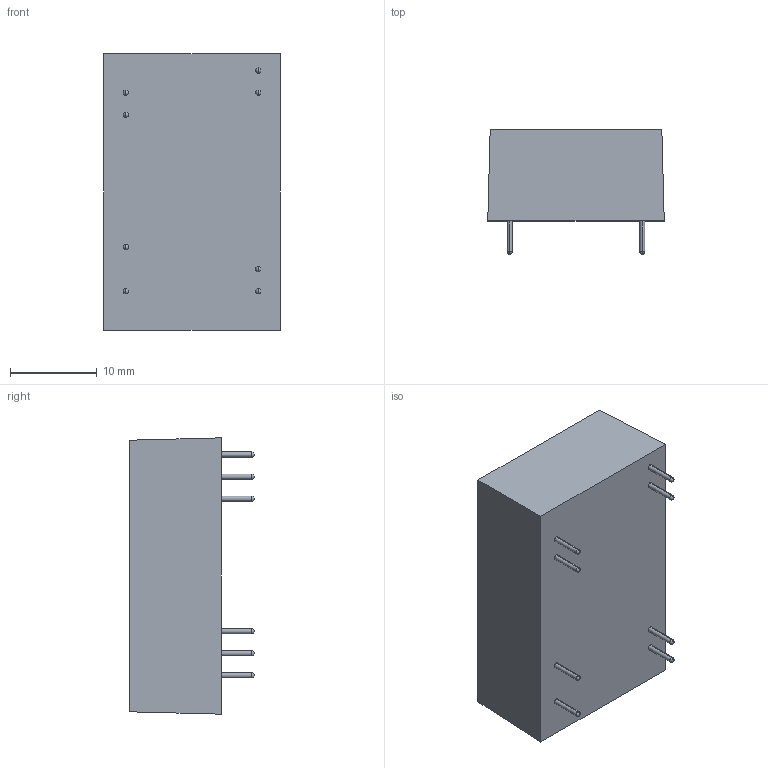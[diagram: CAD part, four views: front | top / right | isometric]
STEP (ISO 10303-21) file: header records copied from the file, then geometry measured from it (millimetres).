
FILE_DESCRIPTION (( 'STEP AP214' ), '1' );
FILE_NAME ('THM 6-B4-Dual.STEP', '2024-05-31T07:27:33', ( '' ), ( '' ), 'SwSTEP 2.0', 'SolidWorks 2017', '' );
FILE_SCHEMA (( 'AUTOMOTIVE_DESIGN' ));
Length unit declared in the file: millimetre
Products named in the file (1): THM 6-B4-Dual
Bounding box: 20.3 x 14.3 x 31.8 mm (x, y, z)
Volume: 6637.2 mm3; surface area: 2400.7 mm2
Topology: 1 solids, 1 shells, 38 faces, 108 edges, 64 vertices
Faces by surface type: sphere 16, cylinder 16, plane 6
Entity records: 1280 total; most frequent: DIRECTION 202, CARTESIAN_POINT 163, ORIENTED_EDGE 152, AXIS2_PLACEMENT_3D 87, EDGE_CURVE 76, VERTEX_POINT 48, CIRCLE 48, EDGE_LOOP 46
